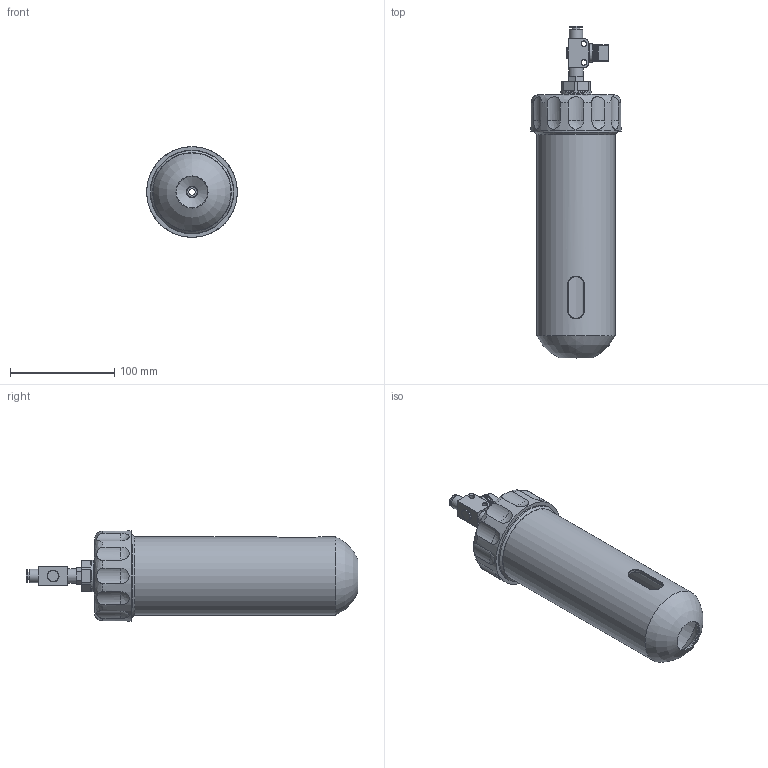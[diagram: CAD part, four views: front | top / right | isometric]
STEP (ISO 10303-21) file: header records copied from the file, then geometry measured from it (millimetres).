
FILE_DESCRIPTION (( 'STEP AP214' ), '1' );
FILE_NAME ('SEMCO20-PCP.STEP', '2024-10-14T12:41:13', ( '' ), ( '' ), 'SwSTEP 2.0', 'SolidWorks 2024', '' );
FILE_SCHEMA (( 'AUTOMOTIVE_DESIGN' ));
Length unit declared in the file: millimetre
Products named in the file (1): SEMCO20-PCP
Bounding box: 87 x 318.66 x 87 mm (x, y, z)
Volume: 312815.4 mm3; surface area: 162242.4 mm2
Topology: 5 solids, 5 shells, 485 faces, 1202 edges, 729 vertices
Faces by surface type: cylinder 209, plane 161, bspline 94, cone 18, torus 3
Full cylindrical faces by diameter (mm): 5 x2, 6 x1, 8 x1, 10 x1, 11 x1, 11.5 x1, 12 x1, 13 x1, 14 x1, 17.5 x1, 28.6 x1, 29.6 x1, 30 x3, 30.2 x1, 34.4 x1, 34.8 x1, 35 x1, 44.8 x1, 45 x1, 59 x1, 64.3 x2, 68.4 x1, 75 x2, 77 x3, 79.6 x1, 80 x4, 87 x1
Entity records: 19379 total; most frequent: CARTESIAN_POINT 9120, ORIENTED_EDGE 2192, DIRECTION 1891, EDGE_CURVE 1096, VERTEX_POINT 707, AXIS2_PLACEMENT_3D 674, EDGE_LOOP 587, VECTOR 543
